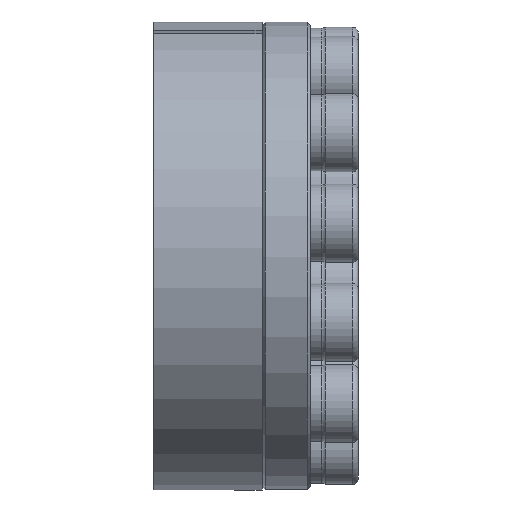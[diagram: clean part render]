
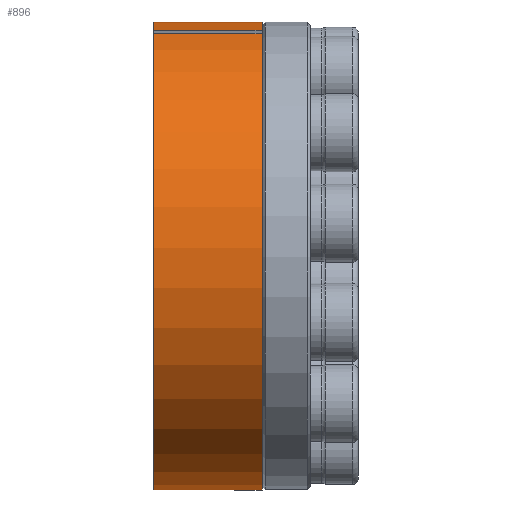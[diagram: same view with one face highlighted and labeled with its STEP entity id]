
A CAD part, front view. The second image highlights one B-rep face of the part: STEP entity #896.
In plain terms, the highlighted cylindrical face has radius 39 mm (diameter 78 mm), a partial arc.
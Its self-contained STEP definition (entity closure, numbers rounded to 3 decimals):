
#778=CARTESIAN_POINT('',(0.0,0.013,-1.0));
#779=VERTEX_POINT('',#778);
#786=CARTESIAN_POINT('',(18.,0.013,-1.0));
#787=VERTEX_POINT('',#786);
#788=CARTESIAN_POINT('',(18.,0.013,-1.0));
#789=DIRECTION('',(-1.0,0.0,0.0));
#790=VECTOR('',#789,18.);
#791=LINE('',#788,#790);
#792=EDGE_CURVE('',#787,#779,#791,.T.);
#823=CARTESIAN_POINT('',(0.0,0.013,1.0));
#824=VERTEX_POINT('',#823);
#825=CARTESIAN_POINT('',(18.,0.013,1.0));
#826=VERTEX_POINT('',#825);
#827=CARTESIAN_POINT('',(0.0,0.013,1.0));
#828=DIRECTION('',(1.0,0.0,0.0));
#829=VECTOR('',#828,18.);
#830=LINE('',#827,#829);
#831=EDGE_CURVE('',#824,#826,#830,.T.);
#873=CARTESIAN_POINT('',(9.,39.0,0.0));
#874=DIRECTION('',(-1.0,0.0,0.0));
#875=DIRECTION('',(0.0,-1.0,0.0));
#876=AXIS2_PLACEMENT_3D('',#873,#874,#875);
#877=CYLINDRICAL_SURFACE('',#876,39.0);
#878=ORIENTED_EDGE('',*,*,#792,.T.);
#879=CARTESIAN_POINT('',(0.0,39.0,0.0));
#880=DIRECTION('',(-1.0,0.0,0.0));
#881=DIRECTION('',(0.0,-1.0,0.0));
#882=AXIS2_PLACEMENT_3D('',#879,#880,#881);
#883=CIRCLE('',#882,39.0);
#884=EDGE_CURVE('',#824,#779,#883,.T.);
#885=ORIENTED_EDGE('',*,*,#884,.F.);
#886=ORIENTED_EDGE('',*,*,#831,.T.);
#887=CARTESIAN_POINT('',(18.,39.0,0.0));
#888=DIRECTION('',(-1.0,0.0,0.0));
#889=DIRECTION('',(0.0,-1.0,0.0));
#890=AXIS2_PLACEMENT_3D('',#887,#888,#889);
#891=CIRCLE('',#890,39.0);
#892=EDGE_CURVE('',#826,#787,#891,.T.);
#893=ORIENTED_EDGE('',*,*,#892,.T.);
#894=EDGE_LOOP('',(#878,#885,#886,#893));
#895=FACE_OUTER_BOUND('',#894,.T.);
#896=ADVANCED_FACE('',(#895),#877,.T.);
